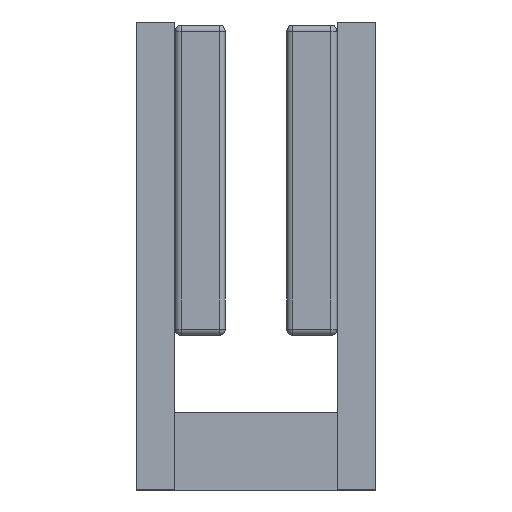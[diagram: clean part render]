
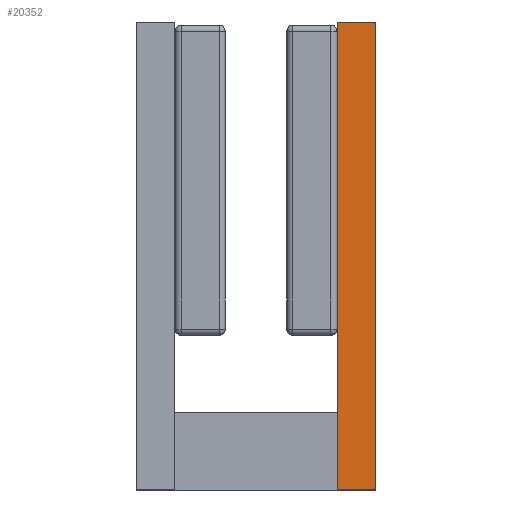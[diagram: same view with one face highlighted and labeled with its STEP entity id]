
A CAD part, left-side view. The second image highlights one B-rep face of the part: STEP entity #20352.
In plain terms, the highlighted planar face has unit normal (-1, 0, 0).
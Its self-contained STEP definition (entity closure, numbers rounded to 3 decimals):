
#491 = CARTESIAN_POINT ( 'NONE',  ( -124.208, 3.463, 69.9 ) ) ;
#1480 = ORIENTED_EDGE ( 'NONE', *, *, #9942, .F. ) ;
#1849 = CARTESIAN_POINT ( 'NONE',  ( -124.208, -2.837, 69.9 ) ) ;
#5398 = DIRECTION ( 'NONE',  ( 0., 0., -1. ) ) ;
#5684 = LINE ( 'NONE', #25530, #5718 ) ;
#5707 = CARTESIAN_POINT ( 'NONE',  ( -124.208, -2.837, -6.3 ) ) ;
#5718 = VECTOR ( 'NONE', #20847, 1000. ) ;
#8643 = ORIENTED_EDGE ( 'NONE', *, *, #27406, .T. ) ;
#8789 = VERTEX_POINT ( 'NONE', #27423 ) ;
#9054 = VECTOR ( 'NONE', #22779, 1000. ) ;
#9942 = EDGE_CURVE ( 'NONE', #21086, #28007, #5684, .T. ) ;
#11537 = EDGE_CURVE ( 'NONE', #28007, #8789, #19732, .T. ) ;
#11551 = AXIS2_PLACEMENT_3D ( 'NONE', #1849, #26204, #16219 ) ;
#13548 = VECTOR ( 'NONE', #5398, 1000. ) ;
#13875 = CARTESIAN_POINT ( 'NONE',  ( -124.208, -2.837, 69.9 ) ) ;
#13947 = LINE ( 'NONE', #491, #13548 ) ;
#15552 = CARTESIAN_POINT ( 'NONE',  ( -124.208, -2.837, -6.3 ) ) ;
#16219 = DIRECTION ( 'NONE',  ( 0., 1., 0. ) ) ;
#18185 = LINE ( 'NONE', #29615, #30682 ) ;
#18311 = EDGE_LOOP ( 'NONE', ( #8643, #29487, #1480, #20228 ) ) ;
#19732 = LINE ( 'NONE', #5707, #9054 ) ;
#20228 = ORIENTED_EDGE ( 'NONE', *, *, #27333, .T. ) ;
#20352 = ADVANCED_FACE ( 'NONE', ( #27180 ), #28543, .F. ) ;
#20847 = DIRECTION ( 'NONE',  ( 0., 0., -1. ) ) ;
#21086 = VERTEX_POINT ( 'NONE', #13875 ) ;
#22779 = DIRECTION ( 'NONE',  ( 0., 1., 0. ) ) ;
#25530 = CARTESIAN_POINT ( 'NONE',  ( -124.208, -2.837, 69.9 ) ) ;
#26204 = DIRECTION ( 'NONE',  ( 1., 0., 0. ) ) ;
#27180 = FACE_OUTER_BOUND ( 'NONE', #18311, .T. ) ;
#27333 = EDGE_CURVE ( 'NONE', #21086, #28864, #18185, .T. ) ;
#27406 = EDGE_CURVE ( 'NONE', #28864, #8789, #13947, .T. ) ;
#27423 = CARTESIAN_POINT ( 'NONE',  ( -124.208, 3.463, -6.3 ) ) ;
#27486 = DIRECTION ( 'NONE',  ( 0., 1., 0. ) ) ;
#28007 = VERTEX_POINT ( 'NONE', #15552 ) ;
#28543 = PLANE ( 'NONE',  #11551 ) ;
#28864 = VERTEX_POINT ( 'NONE', #29401 ) ;
#29401 = CARTESIAN_POINT ( 'NONE',  ( -124.208, 3.463, 69.9 ) ) ;
#29487 = ORIENTED_EDGE ( 'NONE', *, *, #11537, .F. ) ;
#29615 = CARTESIAN_POINT ( 'NONE',  ( -124.208, -2.837, 69.9 ) ) ;
#30682 = VECTOR ( 'NONE', #27486, 1000. ) ;
